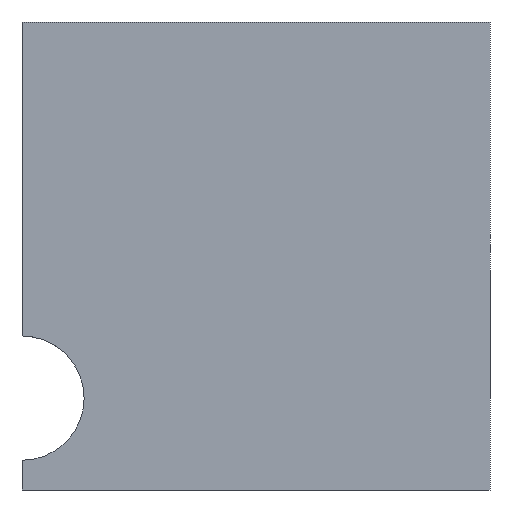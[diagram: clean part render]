
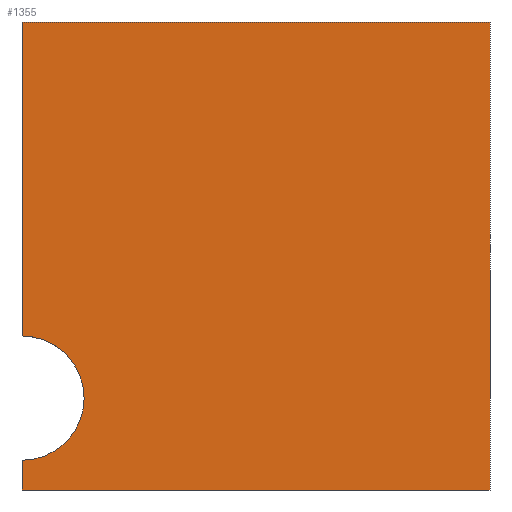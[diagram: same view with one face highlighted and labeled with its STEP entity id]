
A CAD part, left-side view. The second image highlights one B-rep face of the part: STEP entity #1355.
In plain terms, the highlighted planar face has unit normal (-1, 0, 0).
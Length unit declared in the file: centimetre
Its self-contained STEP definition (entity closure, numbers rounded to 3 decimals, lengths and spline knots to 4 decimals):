
#17 = CARTESIAN_POINT ( 'NONE',  ( 0., 1000., 63.5028 ) ) ;
#96 = VECTOR ( 'NONE', #349, 100. ) ;
#105 = CARTESIAN_POINT ( 'NONE',  ( 0., 1000., 1000. ) ) ;
#111 = CARTESIAN_POINT ( 'NONE',  ( 0., 1000., 1000. ) ) ;
#141 = LINE ( 'NONE', #479, #548 ) ;
#144 = LINE ( 'NONE', #270, #225 ) ;
#151 = CARTESIAN_POINT ( 'NONE',  ( 0., 0., 1000. ) ) ;
#176 = VERTEX_POINT ( 'NONE', #17 ) ;
#180 = CARTESIAN_POINT ( 'NONE',  ( 0., 1000., 1000. ) ) ;
#205 = ORIENTED_EDGE ( 'NONE', *, *, #254, .F. ) ;
#225 = VECTOR ( 'NONE', #500, 100. ) ;
#229 = CARTESIAN_POINT ( 'NONE',  ( 0., 1000., 0. ) ) ;
#254 = EDGE_CURVE ( 'NONE', #782, #1163, #1162, .T. ) ;
#270 = CARTESIAN_POINT ( 'NONE',  ( 0., 1000., 1000. ) ) ;
#296 = DIRECTION ( 'NONE',  ( 0., 0., 1. ) ) ;
#318 = CARTESIAN_POINT ( 'NONE',  ( 0., 1000., 196.304 ) ) ;
#330 = ORIENTED_EDGE ( 'NONE', *, *, #982, .T. ) ;
#334 = CARTESIAN_POINT ( 'NONE',  ( 0., 1000., 0. ) ) ;
#346 = LINE ( 'NONE', #334, #866 ) ;
#349 = DIRECTION ( 'NONE',  ( 0., -1., 0. ) ) ;
#411 = EDGE_LOOP ( 'NONE', ( #985, #1463, #1047, #330, #430, #205 ) ) ;
#430 = ORIENTED_EDGE ( 'NONE', *, *, #608, .F. ) ;
#441 = LINE ( 'NONE', #180, #553 ) ;
#479 = CARTESIAN_POINT ( 'NONE',  ( 0., 0., 1000. ) ) ;
#500 = DIRECTION ( 'NONE',  ( 0., 0., -1. ) ) ;
#548 = VECTOR ( 'NONE', #1048, 100. ) ;
#551 = CARTESIAN_POINT ( 'NONE',  ( 0., 0., 0. ) ) ;
#553 = VECTOR ( 'NONE', #968, 100. ) ;
#591 = CARTESIAN_POINT ( 'NONE',  ( 0., 1000., 1000. ) ) ;
#594 = CARTESIAN_POINT ( 'NONE',  ( 0., 1000., 329.1053 ) ) ;
#608 = EDGE_CURVE ( 'NONE', #1163, #796, #141, .T. ) ;
#651 = DIRECTION ( 'NONE',  ( -1., 0., 0. ) ) ;
#730 = AXIS2_PLACEMENT_3D ( 'NONE', #318, #651, #296 ) ;
#782 = VERTEX_POINT ( 'NONE', #105 ) ;
#790 = EDGE_CURVE ( 'NONE', #782, #987, #441, .T. ) ;
#794 = PLANE ( 'NONE',  #1253 ) ;
#796 = VERTEX_POINT ( 'NONE', #551 ) ;
#847 = VERTEX_POINT ( 'NONE', #229 ) ;
#849 = CIRCLE ( 'NONE', #730, 132.8013 ) ;
#866 = VECTOR ( 'NONE', #1251, 100. ) ;
#913 = FACE_OUTER_BOUND ( 'NONE', #411, .T. ) ;
#968 = DIRECTION ( 'NONE',  ( 0., 0., -1. ) ) ;
#982 = EDGE_CURVE ( 'NONE', #847, #796, #346, .T. ) ;
#985 = ORIENTED_EDGE ( 'NONE', *, *, #790, .T. ) ;
#987 = VERTEX_POINT ( 'NONE', #594 ) ;
#1014 = DIRECTION ( 'NONE',  ( 1., 0., 0. ) ) ;
#1047 = ORIENTED_EDGE ( 'NONE', *, *, #1084, .T. ) ;
#1048 = DIRECTION ( 'NONE',  ( 0., 0., -1. ) ) ;
#1084 = EDGE_CURVE ( 'NONE', #176, #847, #144, .T. ) ;
#1162 = LINE ( 'NONE', #591, #96 ) ;
#1163 = VERTEX_POINT ( 'NONE', #151 ) ;
#1251 = DIRECTION ( 'NONE',  ( 0., -1., 0. ) ) ;
#1253 = AXIS2_PLACEMENT_3D ( 'NONE', #111, #1014, #1259 ) ;
#1259 = DIRECTION ( 'NONE',  ( 0., 0., -1. ) ) ;
#1355 = ADVANCED_FACE ( 'NONE', ( #913 ), #794, .F. ) ;
#1423 = EDGE_CURVE ( 'NONE', #176, #987, #849, .T. ) ;
#1463 = ORIENTED_EDGE ( 'NONE', *, *, #1423, .F. ) ;
